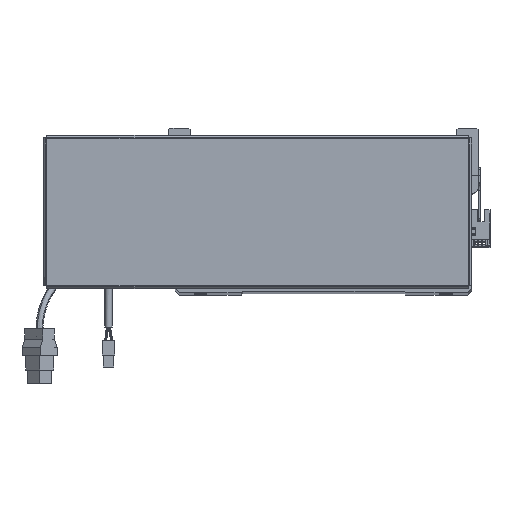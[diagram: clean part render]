
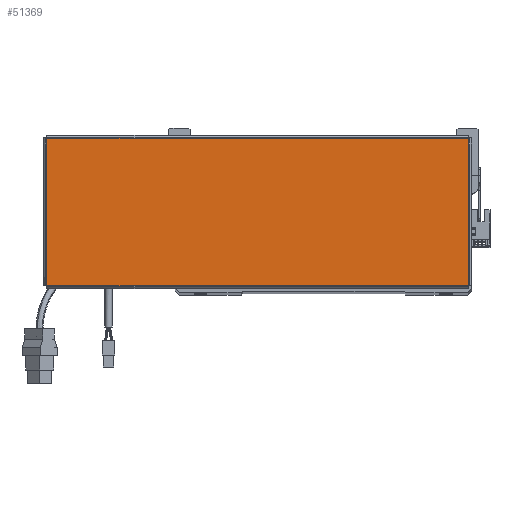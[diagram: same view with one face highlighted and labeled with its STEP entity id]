
A CAD part, top view. The second image highlights one B-rep face of the part: STEP entity #51369.
In plain terms, the highlighted planar face has unit normal (0, 0, 1).
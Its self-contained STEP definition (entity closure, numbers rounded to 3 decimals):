
#3989 = CARTESIAN_POINT ( 'NONE',  ( -156.543, -54.763, 0. ) ) ;
#4490 = PLANE ( 'NONE',  #39272 ) ;
#6370 = EDGE_CURVE ( 'NONE', #68006, #63082, #65351, .T. ) ;
#7466 = VERTEX_POINT ( 'NONE', #43922 ) ;
#8443 = LINE ( 'NONE', #3989, #38457 ) ;
#8881 = DIRECTION ( 'NONE',  ( 1., 0., 0. ) ) ;
#11323 = DIRECTION ( 'NONE',  ( 0., 1., 0. ) ) ;
#12895 = VECTOR ( 'NONE', #11323, 1000. ) ;
#15803 = VERTEX_POINT ( 'NONE', #57038 ) ;
#16134 = CARTESIAN_POINT ( 'NONE',  ( 156.543, 54.763, 0. ) ) ;
#16577 = DIRECTION ( 'NONE',  ( -1., 0., 0. ) ) ;
#17874 = VECTOR ( 'NONE', #65995, 1000. ) ;
#19000 = CARTESIAN_POINT ( 'NONE',  ( -156.513, 54.793, 0. ) ) ;
#21188 = LINE ( 'NONE', #19000, #17874 ) ;
#22435 = CARTESIAN_POINT ( 'NONE',  ( 156.513, -54.793, 0. ) ) ;
#22807 = EDGE_LOOP ( 'NONE', ( #44258, #46129, #33367, #57518 ) ) ;
#23158 = EDGE_CURVE ( 'NONE', #63082, #15803, #40935, .T. ) ;
#33367 = ORIENTED_EDGE ( 'NONE', *, *, #23158, .T. ) ;
#38457 = VECTOR ( 'NONE', #8881, 1000. ) ;
#38637 = FACE_OUTER_BOUND ( 'NONE', #22807, .T. ) ;
#39272 = AXIS2_PLACEMENT_3D ( 'NONE', #47093, #62202, #41775 ) ;
#40935 = LINE ( 'NONE', #16134, #41736 ) ;
#41736 = VECTOR ( 'NONE', #16577, 1000. ) ;
#41775 = DIRECTION ( 'NONE',  ( 1., 0., 0. ) ) ;
#43922 = CARTESIAN_POINT ( 'NONE',  ( -156.513, -54.763, 0. ) ) ;
#44258 = ORIENTED_EDGE ( 'NONE', *, *, #57940, .T. ) ;
#46129 = ORIENTED_EDGE ( 'NONE', *, *, #6370, .T. ) ;
#47093 = CARTESIAN_POINT ( 'NONE',  ( 0., 0., 0. ) ) ;
#50610 = EDGE_CURVE ( 'NONE', #15803, #7466, #21188, .T. ) ;
#51369 = ADVANCED_FACE ( 'NONE', ( #38637 ), #4490, .T. ) ;
#56737 = CARTESIAN_POINT ( 'NONE',  ( 156.513, 54.763, 0. ) ) ;
#57038 = CARTESIAN_POINT ( 'NONE',  ( -156.513, 54.763, 0. ) ) ;
#57518 = ORIENTED_EDGE ( 'NONE', *, *, #50610, .T. ) ;
#57940 = EDGE_CURVE ( 'NONE', #7466, #68006, #8443, .T. ) ;
#58505 = CARTESIAN_POINT ( 'NONE',  ( 156.513, -54.763, 0. ) ) ;
#62202 = DIRECTION ( 'NONE',  ( 0., 0., 1. ) ) ;
#63082 = VERTEX_POINT ( 'NONE', #56737 ) ;
#65351 = LINE ( 'NONE', #22435, #12895 ) ;
#65995 = DIRECTION ( 'NONE',  ( 0., -1., 0. ) ) ;
#68006 = VERTEX_POINT ( 'NONE', #58505 ) ;
